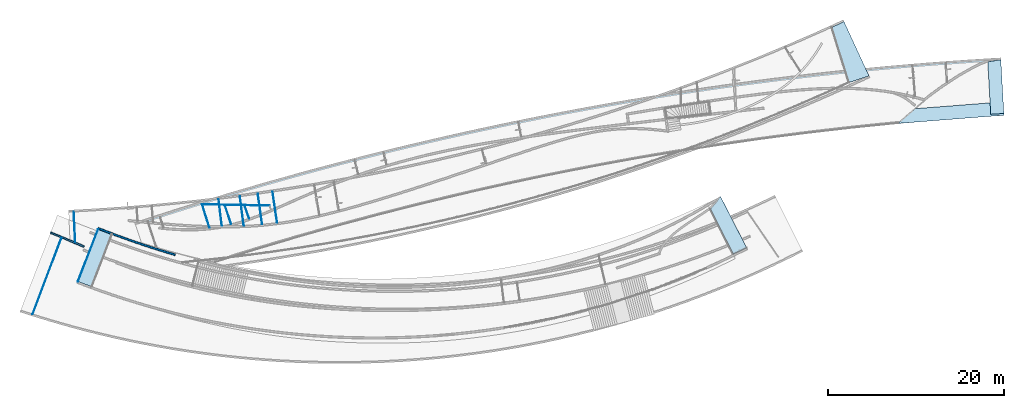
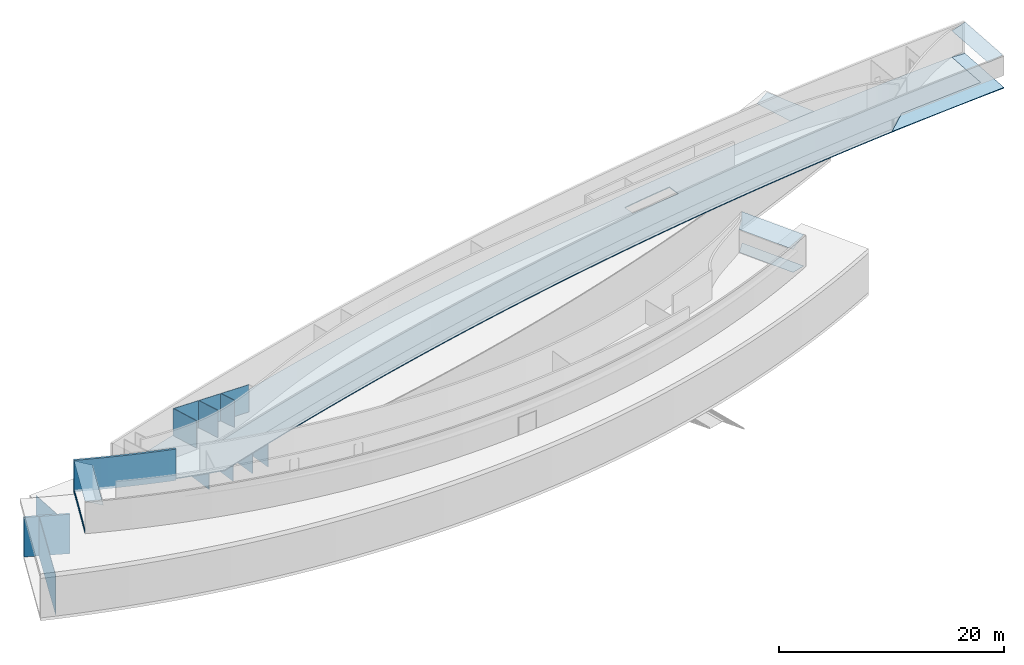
# Not in any storey, part 3 of 16: 13 walls, 7 slabs, 1 opening.
"""IFC2X3 model written with IfcOpenShell, lengths in millimetres."""

from ifc_helpers import new_model, entity, si_unit, converted_unit, point, direction, frame, frame_2d, origin, origin_with_axes, place, context, project, spatial, polyline, circle_curve, trimmed, segment, composite_curve, outline, extrude, open_shell, surface_model, material, layer, layer_set, layer_usage, type_object, element, save


model = new_model("IFC2X3")

# Units and contexts
model_context = context("Model", 3, precision=1.0, world=origin_with_axes(), true_north=direction((0.0, 1.0)))
ifc_project = project(units=[converted_unit("PLANEANGLEUNIT", "DEGREE", entity("IfcRatioMeasure", 0.017453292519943), si_unit("PLANEANGLEUNIT", "RADIAN"), dimensions=[0, 0, 0, 0, 0, 0, 0]), si_unit("LENGTHUNIT", "METRE", prefix="MILLI")], contexts=[model_context])

# Site
site_placement = place(None, origin_with_axes())
site = spatial("IfcSite", under=ifc_project, at=site_placement, Name="Site", CompositionType="ELEMENT")

# Slab, opening
ifc_material_1 = material(Name="Slab layer 1")
ifc_layer_1 = layer(ifc_material_1, 100.0)
ifc_layer_set_1 = layer_set([ifc_layer_1], Name="HOKI slab")
slab_type = type_object("IfcSlabType", Name="HOKI slab", PredefinedType="FLOOR", material=ifc_layer_set_1)
slab_1_placement = place(site_placement, frame((-44287.0775326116, -10761.7683450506, 9600.0), z_axis=(0.0, 0.0, 1.0), x_axis=(-0.314163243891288, 0.949368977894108, 0.0)))
slab_1 = element("IfcSlab", 1, at=slab_1_placement, inside=site, type_object=slab_type, ObjectType="HOKI slab", PredefinedType="FLOOR", context=model_context, shape_type="SweptSolid", body=[
    extrude(outline(composite_curve([segment(trimmed(circle_curve(frame_2d((75088.5313877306, 51167.8127930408), x_axis=(-0.808762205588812, -0.588135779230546)), 86999.9999999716), [point((4726.21950152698, 7.276e-12))], [point((-22.8138166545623, 7266.94922997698))], False, "CARTESIAN"), True, "CONTINUOUS"), segment(trimmed(circle_curve(frame_2d((-372891.866829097, 2462.85594441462), x_axis=(0.999917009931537, 0.012883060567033)), 372900.000008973), [point((-22.8138166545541, 7266.94922997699))], [point((-12308.494545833, 97510.4316079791))], True, "CARTESIAN"), True, "CONTINUOUS"), segment(polyline([(-12308.494545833, 97510.4316079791), (-6021.43381727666, 99202.5656345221)]), True, "CONTINUOUS"), segment(trimmed(circle_curve(frame_2d((-374604.858528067, -1.375156e-09), x_axis=(0.965636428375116, 0.259896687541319)), 381700.000000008), [point((-6021.43381727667, 99202.5656345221))], [point((7095.1414719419, -2.9104e-11))], False, "CARTESIAN"), True, "CONTINUOUS"), segment(polyline([(7095.14147194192, 0.0), (4726.21950152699, 7.276e-12)]), True, "CONTINUOUS")], self_intersect="UNKNOWN")), frame((-2.728e-12, 7.276e-12, -100.0), z_axis=(0.0, 0.0, -1.0), x_axis=(1.0, 0.0, 0.0)), (0.0, 0.0, -1.0), 100.0),
])
opening_placement = place(site_placement, frame((-44287.0775326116, -10761.7683450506, 9600.0), z_axis=(0.0, 0.0, 1.0), x_axis=(-0.314163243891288, 0.949368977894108, 0.0)))
element("IfcOpeningElement", 2, at=opening_placement, cuts=slab_1, context=model_context, shape_type="SweptSolid", body=[
    extrude(outline(composite_curve([segment(polyline([(-1647.48658080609, 65994.3432347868), (-1373.03797674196, 64656.8893440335), (-1123.41662690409, 63450.3748727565), (-620.454362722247, 61043.757604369)]), True, "CONTINUOUS"), segment(polyline([(-620.454362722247, 61043.757604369), (481.557226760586, 61222.4257902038)]), True, "CONTINUOUS"), segment(polyline([(481.557226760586, 61222.4257902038), (353.031499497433, 62048.9770164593), (237.318176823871, 62775.0344123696), (131.157620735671, 63422.2130060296), (31.2901932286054, 64012.1278255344), (-65.5437437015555, 64566.3938989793), (-162.60382805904, 65106.6262544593), (-370.440991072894, 66231.4499239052)]), True, "CONTINUOUS"), segment(polyline([(-370.440991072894, 66231.4499239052), (-1647.48658080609, 65994.3432347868)]), True, "CONTINUOUS")], self_intersect="UNKNOWN")), frame((-2.728e-12, 7.276e-12, -100.0), z_axis=(0.0, 0.0, -1.0), x_axis=(1.0, 0.0, 0.0)), (0.0, 0.0, -1.0), 100.0),
])

# Slabs
slab_2_placement = place(None, origin())
element("IfcSlab", 3, at=slab_2_placement, inside=site, PredefinedType="FLOOR", context=model_context, shape_type="SurfaceModel", body=[
    surface_model("IfcShellBasedSurfaceModel", [(51051.3136458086, 14369.3282263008, 9725.0), (51795.7999132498, 14487.7899573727, 9600.0), (51974.4888721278, 11337.4561165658, 9600.0), (52153.1778310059, 8187.12227575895, 9600.0), (50571.2481310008, 9589.05834288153, 9850.00000000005), (50439.0377546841, 11919.9624190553, 9850.00000000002), (50306.8273783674, 14250.866495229, 9850.0), (50571.2481310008, 9589.05834288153, 9850.00000000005), (52153.1778310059, 8187.12227575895, 9600.0), (40112.1622267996, 7245.54359665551, 9600.0), (42073.5210196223, 8931.62333265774, 9849.99999999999)], [open_shell([[[0, 1, 2, 3, 4, 5, 6]], [[7, 8, 9, 10]]])]),
])
slab_3_placement = place(None, origin())
element("IfcSlab", 4, at=slab_3_placement, inside=site, Name="edge", PredefinedType="FLOOR", context=model_context, shape_type="SurfaceModel", body=[
    surface_model("IfcShellBasedSurfaceModel", [(-49937.8295480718, -5048.44083184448, 12675.0026292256), (-49157.0088633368, -5353.7376369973, 12350.0), (-51443.4692156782, -11274.6655647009, 12350.0), (-52226.9011886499, -10978.6436582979, 12675.0), (-53010.3331616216, -10682.6217518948, 13000.0), (-50718.6502328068, -4743.14402669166, 13000.0052584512)], [open_shell([[[0, 1, 2, 3, 4, 5]]])]),
])
slab_4_placement = place(None, origin())
element("IfcSlab", 5, at=slab_4_placement, inside=site, Name="edge", PredefinedType="FLOOR", context=model_context, shape_type="SurfaceModel", body=[
    surface_model("IfcShellBasedSurfaceModel", [(19401.8506600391, -1759.26974196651, 9725.00022456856), (18832.2488408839, -2486.37462828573, 9850.0), (20125.8335449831, -5033.27380528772, 9850.0), (21419.4182490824, -7580.17298228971, 9850.0), (22180.4351056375, -7222.82306952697, 9725.0), (22941.4519621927, -6865.47315676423, 9600.0), (21456.4522206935, -3948.81900620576, 9600.00022456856), (19971.4524791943, -1032.16485564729, 9600.00044913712)], [open_shell([[[0, 1, 2, 3, 4, 5, 6, 7]]])]),
])
slab_5_placement = place(None, origin())
element("IfcSlab", 6, at=slab_5_placement, inside=site, Name="edge", PredefinedType="FLOOR", context=model_context, shape_type="SurfaceModel", body=[
    surface_model("IfcShellBasedSurfaceModel", [(19945.6666619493, -1014.68709450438, 13000.0), (21443.559312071, -3940.08012563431, 13000.0), (20125.8335449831, -5033.27380528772, 12350.0), (18832.2488408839, -2486.37462828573, 12350.0), (22941.4519621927, -6865.47315676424, 13000.0), (21419.4182490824, -7580.17298228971, 12350.0)], [open_shell([[[0, 1, 2]], [[2, 3, 0]], [[1, 4, 5]], [[5, 2, 1]]])]),
])
slab_6_placement = place(None, origin())
element("IfcSlab", 7, at=slab_6_placement, inside=site, PredefinedType="FLOOR", context=model_context, shape_type="SurfaceModel", body=[
    surface_model("IfcShellBasedSurfaceModel", [(52141.8381294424, 8387.04422843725, 13000.0), (50644.8697405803, 8291.08979726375, 12700.0), (50306.8242881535, 14250.9209765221, 12700.0), (51795.7999132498, 14487.7899573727, 13000.0)], [open_shell([[[0, 1, 2, 3]]])]),
])
slab_7_placement = place(None, origin())
element("IfcSlab", 8, at=slab_7_placement, inside=site, PredefinedType="FLOOR", context=model_context, shape_type="SurfaceModel", body=[
    surface_model("IfcShellBasedSurfaceModel", [(33275.357024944, 18480.1220023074, 8825.0), (32562.7384844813, 18145.1588866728, 8650.0), (34565.1641239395, 11889.3611130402, 8650.0), (35695.6072171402, 12273.9347576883, 8825.00044399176), (36826.0503103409, 12658.5084023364, 9000.00088798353), (33987.9755654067, 18815.085117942, 9000.0)], [open_shell([[[0, 1, 2]], [[2, 3, 0]], [[3, 4, 5]], [[5, 0, 3]]])]),
])

# Walls
ifc_material_2 = material(Name="Wall layer 1")
ifc_layer_2 = layer(ifc_material_2, 200.0)
ifc_layer_set_2 = layer_set([ifc_layer_2], Name="HOKI 350")
ifc_layer_usage_1 = layer_usage(ifc_layer_set_2, "AXIS2", "POSITIVE", -100.0)
wall_type_1 = type_object("IfcWallType", Name="HOKI 350", PredefinedType="STANDARD", material=ifc_layer_set_2)
wall_1_placement = place(site_placement, frame((-52316.0015552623, -6826.89529054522, 4720.0), z_axis=(0.0, 0.0, 1.0), x_axis=(-0.922158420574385, 0.386812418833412, 0.0)))
element("IfcWallStandardCase", 9, at=wall_1_placement, inside=site, type_object=wall_type_1, material=ifc_layer_usage_1, ObjectType="HOKI 350", context=model_context, shape_type="SweptSolid", body=[
    extrude(outline(polyline([(4129.48703432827, -200.000000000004), (4129.48703432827, 0.0), (0.0, 0.0), (0.0, -200.000000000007), (4129.48703432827, -200.000000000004)])), origin_with_axes(), (0.0, 0.0, 1.0), 4280.0),
])
wall_2_placement = place(site_placement, frame((-41912.6985335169, -7564.18108837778, 9600.00525845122), z_axis=(0.0, 0.0, 1.0), x_axis=(-0.959596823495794, 0.281378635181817, 1e-15)))
element("IfcWallStandardCase", 10, at=wall_2_placement, inside=site, type_object=wall_type_1, material=ifc_layer_usage_1, ObjectType="HOKI 350", context=model_context, shape_type="SweptSolid", body=[
    extrude(outline(composite_curve([segment(polyline([(9225.54699779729, -428.403723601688), (9242.18565474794, -229.088838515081)]), True, "CONTINUOUS"), segment(trimmed(circle_curve(frame_2d((-47.5253775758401, -100572.357176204), x_axis=(0.092185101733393, 0.995741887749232)), 100772.368394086), [point((9242.18565474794, -229.088838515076))], [point((0.04720796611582, 199.999988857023))], True, "CARTESIAN"), True, "CONTINUOUS"), segment(polyline([(0.04720796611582, 199.999988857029), (-0.047207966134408, 1.1142974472e-05)]), True, "CONTINUOUS"), segment(trimmed(circle_curve(frame_2d((-47.5253775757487, -100572.357176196), x_axis=(0.00047207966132, 0.99999988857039)), 100572.368394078), [point((-0.047207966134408, 1.1142969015e-05))], [point((9225.54699779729, -428.403723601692))], False, "CARTESIAN"), True, "CONTINUOUS")], self_intersect="UNKNOWN")), origin_with_axes(), (0.0, 0.0, 1.0), 3400.0),
])
ifc_material_3 = material(Name="Wall layer 1")
ifc_layer_3 = layer(ifc_material_3, 50.0)
ifc_layer_set_3 = layer_set([ifc_layer_3], Name="HOKI 50mm")
ifc_layer_usage_2 = layer_usage(ifc_layer_set_3, "AXIS2", "POSITIVE", -25.0)
wall_type_2 = type_object("IfcWallType", Name="HOKI 50mm", PredefinedType="STANDARD", material=ifc_layer_set_3)
wall_3_placement = place(site_placement, frame((-53310.8659384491, -6192.70285091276, 4720.01567763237), z_axis=(0.0, 0.0, 1.0), x_axis=(-0.049701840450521, 0.998764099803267, 0.0)))
element("IfcWallStandardCase", 11, at=wall_3_placement, inside=site, type_object=wall_type_2, material=ifc_layer_usage_2, ObjectType="HOKI 50mm", context=model_context, shape_type="SweptSolid", body=[
    extrude(outline(composite_curve([segment(trimmed(circle_curve(frame_2d((242019.700441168, 561.002999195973), x_axis=(-0.9999972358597, -0.002351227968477)), 238600.002516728), [point((3420.35744832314, -9.095e-12))], [point((3420.48024898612, -50.0000000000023))], True, "CARTESIAN"), True, "CONTINUOUS"), segment(polyline([(3420.48024898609, -50.0000000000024), (-23.9615476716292, -50.0)]), True, "CONTINUOUS"), segment(polyline([(-23.9615476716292, -50.0), (0.0, 0.0)]), True, "CONTINUOUS"), segment(polyline([(0.0, 0.0), (3420.35744832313, -9.107e-12)]), True, "CONTINUOUS")], self_intersect="UNKNOWN")), origin_with_axes(), (0.0, 0.0, 1.0), 4280.0),
])
wall_4_placement = place(site_placement, frame((-50717.0067508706, -4743.78661953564, 9600.00525845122), z_axis=(0.0, 0.0, 1.0), x_axis=(-0.360232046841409, -0.932862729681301, 0.0)))
element("IfcWallStandardCase", 12, at=wall_4_placement, inside=site, type_object=wall_type_2, material=ifc_layer_usage_2, ObjectType="HOKI 50mm", context=model_context, shape_type="SweptSolid", body=[
    extrude(outline(composite_curve([segment(trimmed(circle_curve(frame_2d((-86733.5681551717, 185.231947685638), x_axis=(0.999998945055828, -0.001452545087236)), 93100.0000440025), [point((6366.33367352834, 50.0000000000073))], [point((6366.24761972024, -3.688e-12))], False, "CARTESIAN"), True, "CONTINUOUS"), segment(polyline([(6366.24761972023, -3.652e-12), (0.008534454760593, -1.0061e-11)]), True, "CONTINUOUS"), segment(trimmed(circle_curve(frame_2d((-100768.251513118, 909.965165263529), x_axis=(0.999959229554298, -0.009029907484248)), 100772.368581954), [point((0.008534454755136, -1.0004e-11))], [point((0.447642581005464, 50.0000000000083))], True, "CARTESIAN"), True, "CONTINUOUS"), segment(polyline([(0.447642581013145, 50.0000000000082), (6366.33367352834, 50.0000000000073)]), True, "CONTINUOUS")], self_intersect="UNKNOWN")), origin_with_axes(), (0.0, 0.0, 1.0), 250.0),
])
wall_5_placement = place(site_placement, frame((-30388.0754504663, -4022.99123478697, 4720.0), z_axis=(0.0, 0.0, 1.0), x_axis=(-0.14665791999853, 0.989187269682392, 0.0)))
element("IfcWallStandardCase", 13, at=wall_5_placement, inside=site, type_object=wall_type_2, material=ifc_layer_usage_2, ObjectType="HOKI 50mm", context=model_context, shape_type="SweptSolid", body=[
    extrude(outline(composite_curve([segment(trimmed(circle_curve(frame_2d((242141.202094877, 4.69554822e-07), x_axis=(-1.0, -1.968e-12)), 238600.003379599), [point((3541.19871527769, -1.819e-12))], [point((3541.20395417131, -50.0000000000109))], True, "CARTESIAN"), True, "CONTINUOUS"), segment(polyline([(3541.20395417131, -50.0000000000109), (-0.971272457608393, -50.0000000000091)]), True, "CONTINUOUS"), segment(polyline([(-0.971272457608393, -50.0000000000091), (-0.075649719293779, -1.819e-12)]), True, "CONTINUOUS"), segment(polyline([(-0.075649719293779, -1.819e-12), (3541.19871527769, -1.819e-12)]), True, "CONTINUOUS")], self_intersect="UNKNOWN")), origin_with_axes(), (0.0, 0.0, 1.0), 4280.0),
])
wall_6_placement = place(site_placement, frame((-32089.5751516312, -4208.70202497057, 4720.0), z_axis=(0.0, 0.0, 1.0), x_axis=(-0.139665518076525, 0.990198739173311, 0.0)))
element("IfcWallStandardCase", 14, at=wall_6_placement, inside=site, type_object=wall_type_2, material=ifc_layer_usage_2, ObjectType="HOKI 50mm", context=model_context, shape_type="SweptSolid", body=[
    extrude(outline(composite_curve([segment(trimmed(circle_curve(frame_2d((242081.420367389, 1.652240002e-06), x_axis=(-1.0, -6.925e-12)), 238600.015350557), [point((3481.40501683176, 1.819e-12))], [point((3481.41025572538, -50.0000000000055))], True, "CARTESIAN"), True, "CONTINUOUS"), segment(polyline([(3481.41025572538, -50.0000000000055), (-2.54667425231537, -49.9999999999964)]), True, "CONTINUOUS"), segment(polyline([(-2.54667425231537, -49.9999999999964), (-0.002886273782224, 1.819e-12)]), True, "CONTINUOUS"), segment(polyline([(-0.002886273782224, 1.819e-12), (3481.40501683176, 1.819e-12)]), True, "CONTINUOUS")], self_intersect="UNKNOWN")), origin_with_axes(), (0.0, 0.0, 1.0), 4280.0),
])
wall_7_placement = place(site_placement, frame((-34177.0445643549, -4344.33595584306, 4720.0), z_axis=(0.0, 0.0, 1.0), x_axis=(-0.131122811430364, 0.991366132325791, 0.0)))
element("IfcWallStandardCase", 15, at=wall_7_placement, inside=site, type_object=wall_type_2, material=ifc_layer_usage_2, ObjectType="HOKI 50mm", context=model_context, shape_type="SweptSolid", body=[
    extrude(outline(composite_curve([segment(trimmed(circle_curve(frame_2d((241933.155943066, 3.1203847e-08), x_axis=(-1.0, -1.31e-13)), 238600.001142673), [point((3333.15480039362, 0.0))], [point((3333.16003928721, -49.9999999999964))], True, "CARTESIAN"), True, "CONTINUOUS"), segment(polyline([(3333.16003928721, -49.9999999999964), (-4.52745868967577, -50.0000000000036)]), True, "CONTINUOUS"), segment(polyline([(-4.52745868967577, -50.0000000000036), (-0.056598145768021, -7.276e-12)]), True, "CONTINUOUS"), segment(polyline([(-0.056598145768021, -7.276e-12), (3333.15480039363, 0.0)]), True, "CONTINUOUS")], self_intersect="UNKNOWN")), origin_with_axes(), (0.0, 0.0, 1.0), 4280.0),
])
wall_8_placement = place(site_placement, frame((-36663.4076327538, -4386.79178554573, 4720.0), z_axis=(0.0, 0.0, 1.0), x_axis=(-0.120981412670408, 0.992654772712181, 0.0)))
element("IfcWallStandardCase", 16, at=wall_8_placement, inside=site, type_object=wall_type_2, material=ifc_layer_usage_2, ObjectType="HOKI 50mm", context=model_context, shape_type="SweptSolid", body=[
    extrude(outline(composite_curve([segment(trimmed(circle_curve(frame_2d((241661.861331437, 8.57996403e-07), x_axis=(-1.0, -3.596e-12)), 238600.008308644), [point((3061.85302279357, -1.819e-12))], [point((3061.85826168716, -49.9999999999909))], True, "CARTESIAN"), True, "CONTINUOUS"), segment(polyline([(3061.85826168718, -49.9999999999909), (-6.385017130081, -50.0)]), True, "CONTINUOUS"), segment(polyline([(-6.385017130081, -50.0), (-0.012929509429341, 3.638e-12)]), True, "CONTINUOUS"), segment(polyline([(-0.012929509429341, 3.638e-12), (3061.85302279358, -1.819e-12)]), True, "CONTINUOUS")], self_intersect="UNKNOWN")), origin_with_axes(), (0.0, 0.0, 1.0), 4280.0),
])
wall_9_placement = place(site_placement, frame((-34041.9432896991, -2052.47946905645, 9850.0), z_axis=(0.0, 0.0, 1.0), x_axis=(0.337562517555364, -0.941303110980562, 0.0)))
element("IfcWallStandardCase", 17, at=wall_9_placement, inside=site, type_object=wall_type_2, material=ifc_layer_usage_2, ObjectType="HOKI 50mm", context=model_context, shape_type="SweptSolid", body=[
    extrude(outline(composite_curve([segment(polyline([(1565.13835829, 3.638e-12), (1565.10975464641, -50.0)]), True, "CONTINUOUS"), segment(polyline([(1565.10975464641, -50.0), (-18.9978423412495, -49.9999999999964)]), True, "CONTINUOUS"), segment(polyline([(-18.9978423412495, -49.9999999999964), (0.0, 0.0)]), True, "CONTINUOUS"), segment(polyline([(0.0, 0.0), (1565.13835829, 3.638e-12)]), True, "CONTINUOUS")], self_intersect="UNKNOWN")), origin_with_axes(), (0.0, 0.0, 1.0), 2950.0),
])
wall_10_placement = place(site_placement, frame((-36275.6952362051, -2010.51777757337, 9850.0), z_axis=(0.0, 0.0, 1.0), x_axis=(0.31304631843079, -0.94973785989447, 0.0)))
element("IfcWallStandardCase", 18, at=wall_10_placement, inside=site, type_object=wall_type_2, material=ifc_layer_usage_2, ObjectType="HOKI 50mm", context=model_context, shape_type="SweptSolid", body=[
    extrude(outline(composite_curve([segment(polyline([(2262.2194428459, 0.0), (2258.59835111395, -50.0)]), True, "CONTINUOUS"), segment(polyline([(2258.59835111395, -50.0), (-17.5284687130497, -50.0)]), True, "CONTINUOUS"), segment(polyline([(-17.5284687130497, -50.0), (0.0, 0.0)]), True, "CONTINUOUS"), segment(polyline([(0.0, 0.0), (2262.2194428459, 0.0)]), True, "CONTINUOUS")], self_intersect="UNKNOWN")), origin_with_axes(), (0.0, 0.0, 1.0), 2950.0),
])
wall_11_placement = place(site_placement, frame((-38902.6815114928, -1911.16024142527, 9850.0), z_axis=(0.0, 0.0, 1.0), x_axis=(0.999823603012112, -0.018781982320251, 0.0)))
element("IfcWallStandardCase", 19, at=wall_11_placement, inside=site, type_object=wall_type_2, material=ifc_layer_usage_2, ObjectType="HOKI 50mm", context=model_context, shape_type="SweptSolid", body=[
    extrude(outline(polyline([(7701.39699280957, -50.0000000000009), (7682.49861685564, -4.55e-13), (0.0, 0.0), (69.0464326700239, -49.9999999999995), (7701.39699280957, -50.0000000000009)])), origin_with_axes(), (0.0, 0.0, 1.0), 2950.0),
])
wall_12_placement = place(site_placement, frame((-38027.645772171, -4754.90315070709, 9850.0), z_axis=(0.0, 0.0, 1.0), x_axis=(-0.294097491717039, 0.955775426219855, 0.0)))
element("IfcWallStandardCase", 20, at=wall_12_placement, inside=site, type_object=wall_type_2, material=ifc_layer_usage_2, ObjectType="HOKI 50mm", context=model_context, shape_type="SweptSolid", body=[
    extrude(outline(composite_curve([segment(polyline([(143.070807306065, -50.0000000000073), (152.697418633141, -7.284e-12)]), True, "CONTINUOUS"), segment(polyline([(152.697418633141, -7.284e-12), (2975.32540727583, -1.65e-13)]), True, "CONTINUOUS"), segment(polyline([(2975.32540727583, -1.65e-13), (2906.27897460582, -50.0000000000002)]), True, "CONTINUOUS"), segment(polyline([(2906.27897460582, -50.0000000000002), (143.070807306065, -50.0000000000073)]), True, "CONTINUOUS")], self_intersect="UNKNOWN")), origin_with_axes(), (0.0, 0.0, 1.0), 2950.0),
])
wall_13_placement = place(site_placement, frame((-54836.523883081, -5767.72023605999, 4720.00363059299), z_axis=(0.0, 0.0, 1.0), x_axis=(-0.35415283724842, -0.935187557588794, 0.0)))
element("IfcWallStandardCase", 21, at=wall_13_placement, inside=site, type_object=wall_type_2, material=ifc_layer_usage_2, ObjectType="HOKI 50mm", context=model_context, shape_type="SweptSolid", body=[
    extrude(outline(composite_curve([segment(trimmed(circle_curve(frame_2d((-105498.987164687, -6230.02460797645), x_axis=(0.998528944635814, 0.054221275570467)), 114900.000828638), [point((9231.98940138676, -2.728e-12))], [point((9234.69353224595, -50.0000000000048))], False, "CARTESIAN"), True, "CONTINUOUS"), segment(polyline([(9234.69353224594, -50.0000000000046), (3.641e-12, -49.9999999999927)]), True, "CONTINUOUS"), segment(polyline([(3.641e-12, -49.9999999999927), (1.7589443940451, 7.276e-12)]), True, "CONTINUOUS"), segment(polyline([(1.7589443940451, 7.276e-12), (9231.98940138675, -2.927e-12)]), True, "CONTINUOUS")], self_intersect="UNKNOWN")), origin_with_axes(), (0.0, 0.0, 1.0), 4280.0),
])

save(model, "model.ifc")
